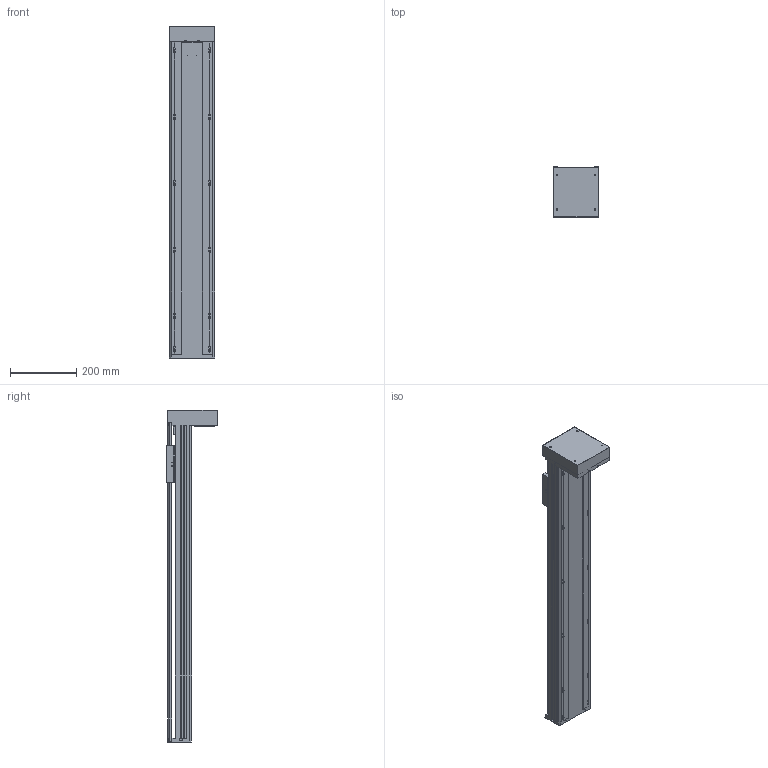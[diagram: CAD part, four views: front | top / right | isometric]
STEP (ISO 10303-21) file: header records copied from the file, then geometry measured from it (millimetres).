
FILE_DESCRIPTION(/* description */ (''),/* implementation_level */ '2;1');
FILE_NAME(/* name */ 'TKA136-FD-750_asm1.stp',/* time_stamp */ '2016-05-07T09:37:33+08:00',/* author */ (''),/* organization */ (''),/* preprocessor_version */ 'ST-DEVELOPER v15',/* originating_system */ 'SIEMENS PLM Software NX 8.5',/* authorisation */ '');
FILE_SCHEMA (('AUTOMOTIVE_DESIGN { 1 0 10303 214 3 1 1 1 }'));
Length unit declared in the file: millimetre
Products named in the file (3): 100-02; 100-01; TKA136-FD-750_asm1
Assembly tree (2 placements, depth 2):
  TKA136-FD-750_asm1
    100-01
    100-02
Bounding box: 136 x 152 x 1000 mm (x, y, z)
Volume: 3175860.2 mm3; surface area: 1233238.3 mm2
Topology: 2 solids, 13 shells, 944 faces, 2655 edges, 1711 vertices
Faces by surface type: cylinder 455, plane 424, cone 65
Full cylindrical faces by diameter (mm): 3 x2, 3.3 x13, 4 x4, 4.2 x8, 4.5 x14, 5 x12, 5.5 x26, 6.6 x16, 8 x12, 10 x9, 10.5 x12, 11 x4, 11.6 x1, 12 x9, 15 x3, 16 x5, 17 x1, 24 x5, 26 x1, 28 x1, 46 x1, 50 x2
Entity records: 31914 total; most frequent: CARTESIAN_POINT 8360, DIRECTION 4930, ORIENTED_EDGE 4658, EDGE_CURVE 2329, AXIS2_PLACEMENT_3D 1867, VERTEX_POINT 1616, EDGE_LOOP 1334, LINE 1196
